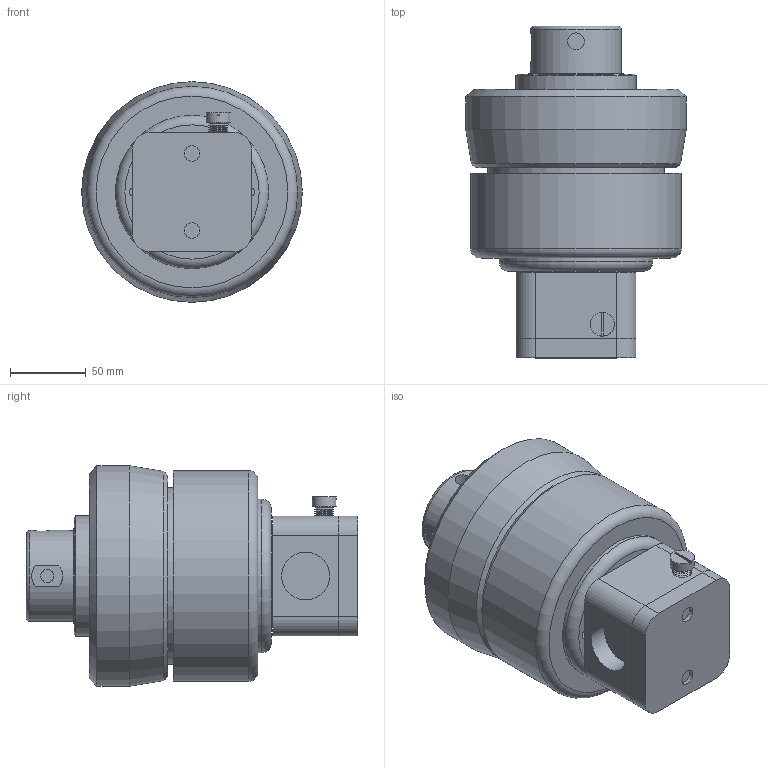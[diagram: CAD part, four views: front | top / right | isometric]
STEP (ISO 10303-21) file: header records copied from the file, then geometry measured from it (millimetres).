
FILE_DESCRIPTION (( 'STEP AP214' ), '1' );
FILE_NAME ('DBH060 INLINE.STEP', '2013-04-24T18:48:52', ( '' ), ( '' ), 'SwSTEP 2.0', 'SolidWorks 2012', '' );
FILE_SCHEMA (( 'AUTOMOTIVE_DESIGN' ));
Length unit declared in the file: inch
Products named in the file (1): DBH060 INLINE
Bounding box: 146.05 x 219.74 x 146.05 mm (x, y, z)
Volume: 2715948.1 mm3; surface area: 210099.3 mm2
Topology: 11 solids, 11 shells, 234 faces, 464 edges, 291 vertices
Faces by surface type: plane 82, cylinder 77, cone 72, torus 3
Full cylindrical faces by diameter (mm): 3.251 x16, 6.35 x2, 6.775 x3, 8.611 x1, 10.264 x15, 10.312 x2, 11.125 x1, 11.43 x3, 15.875 x1, 18.923 x3, 22.225 x1, 31.75 x2, 60.325 x1, 62.332 x1, 62.611 x1, 80.01 x1, 101.6 x1, 116.611 x1, 139.7 x1, 146.05 x1
Entity records: 5433 total; most frequent: DIRECTION 984, CARTESIAN_POINT 916, ORIENTED_EDGE 592, AXIS2_PLACEMENT_3D 456, EDGE_LOOP 406, EDGE_CURVE 296, FACE_OUTER_BOUND 295, VERTEX_POINT 256
